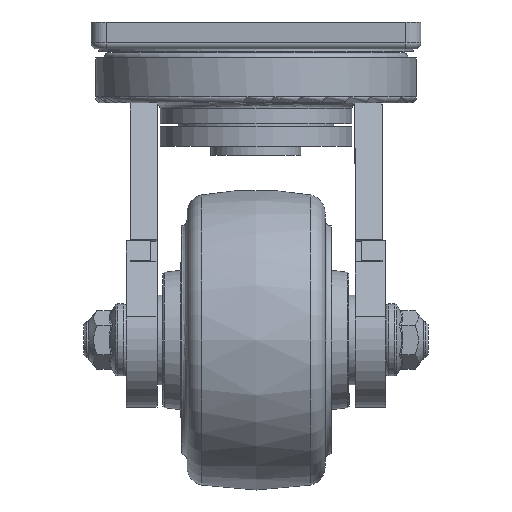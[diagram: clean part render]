
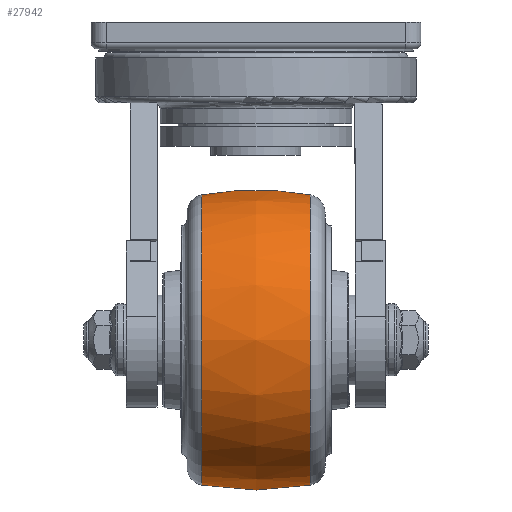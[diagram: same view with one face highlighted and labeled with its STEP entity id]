
A CAD part, left-side view. The second image highlights one B-rep face of the part: STEP entity #27942.
In plain terms, the highlighted free-form (B-spline) face has degree [2, 2] with [3, 9] control points.
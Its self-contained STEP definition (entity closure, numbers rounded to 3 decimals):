
#27870=CARTESIAN_POINT('',(282.18,918.232,140.221));
#27871=VERTEX_POINT('',#27870);
#27872=CARTESIAN_POINT('',(282.18,918.232,91.87));
#27873=DIRECTION('',(0.0,-1.0,0.0));
#27874=DIRECTION('',(0.0,0.0,1.0));
#27875=AXIS2_PLACEMENT_3D('',#27872,#27873,#27874);
#27876=CIRCLE('',#27875,48.351);
#27877=EDGE_CURVE('',#27871,#27871,#27876,.T.);
#27893=CARTESIAN_POINT('',(282.18,918.232,43.519));
#27894=CARTESIAN_POINT('',(282.18,936.317,40.193));
#27895=CARTESIAN_POINT('',(282.18,954.402,43.519));
#27896=CARTESIAN_POINT('',(330.532,918.232,43.519));
#27897=CARTESIAN_POINT('',(333.857,936.317,40.193));
#27898=CARTESIAN_POINT('',(330.532,954.402,43.519));
#27899=CARTESIAN_POINT('',(330.532,918.232,91.87));
#27900=CARTESIAN_POINT('',(333.857,936.317,91.87));
#27901=CARTESIAN_POINT('',(330.532,954.402,91.87));
#27902=CARTESIAN_POINT('',(330.532,918.232,140.221));
#27903=CARTESIAN_POINT('',(333.857,936.317,143.547));
#27904=CARTESIAN_POINT('',(330.532,954.402,140.221));
#27905=CARTESIAN_POINT('',(282.18,918.232,140.221));
#27906=CARTESIAN_POINT('',(282.18,936.317,143.547));
#27907=CARTESIAN_POINT('',(282.18,954.402,140.221));
#27908=CARTESIAN_POINT('',(233.829,918.232,140.221));
#27909=CARTESIAN_POINT('',(230.504,936.317,143.547));
#27910=CARTESIAN_POINT('',(233.829,954.402,140.221));
#27911=CARTESIAN_POINT('',(233.829,918.232,91.87));
#27912=CARTESIAN_POINT('',(230.504,936.317,91.87));
#27913=CARTESIAN_POINT('',(233.829,954.402,91.87));
#27914=CARTESIAN_POINT('',(233.829,918.232,43.519));
#27915=CARTESIAN_POINT('',(230.504,936.317,40.193));
#27916=CARTESIAN_POINT('',(233.829,954.402,43.519));
#27917=CARTESIAN_POINT('',(282.18,918.232,43.519));
#27918=CARTESIAN_POINT('',(282.18,936.317,40.193));
#27919=CARTESIAN_POINT('',(282.18,954.402,43.519));
#27927=(BOUNDED_SURFACE()B_SPLINE_SURFACE(2,2,((#27893,#27896,#27899,#27902,#27905,#27908,#27911,#27914,#27917),(#27894,#27897,#27900,#27903,#27906,#27909,#27912,#27915,#27918),(#27895,#27898,#27901,#27904,#27907,#27910,#27913,#27916,#27919)),.UNSPECIFIED.,.F.,.T.,.U.)B_SPLINE_SURFACE_WITH_KNOTS((3,3),(3,2,2,2,3),(-0.182,0.182),(0.0,1.571,3.142,4.712,6.283),.UNSPECIFIED.)GEOMETRIC_REPRESENTATION_ITEM()RATIONAL_B_SPLINE_SURFACE(((1.0,0.707,1.0,0.707,1.0,0.707,1.0,0.707,1.0),(0.984,0.695,0.984,0.695,0.984,0.695,0.984,0.695,0.984),(1.0,0.707,1.0,0.707,1.0,0.707,1.0,0.707,1.0)))REPRESENTATION_ITEM('')SURFACE());
#27928=CARTESIAN_POINT('',(282.18,954.402,140.221));
#27929=VERTEX_POINT('',#27928);
#27930=CARTESIAN_POINT('',(282.18,954.402,91.87));
#27931=DIRECTION('',(0.0,-1.0,0.0));
#27932=DIRECTION('',(0.0,0.0,1.0));
#27933=AXIS2_PLACEMENT_3D('',#27930,#27931,#27932);
#27934=CIRCLE('',#27933,48.351);
#27935=EDGE_CURVE('',#27929,#27929,#27934,.T.);
#27936=ORIENTED_EDGE('',*,*,#27935,.T.);
#27937=EDGE_LOOP('',(#27936));
#27938=FACE_OUTER_BOUND('',#27937,.T.);
#27939=ORIENTED_EDGE('',*,*,#27877,.F.);
#27940=EDGE_LOOP('',(#27939));
#27941=FACE_BOUND('',#27940,.T.);
#27942=ADVANCED_FACE('',(#27938,#27941),#27927,.T.);
